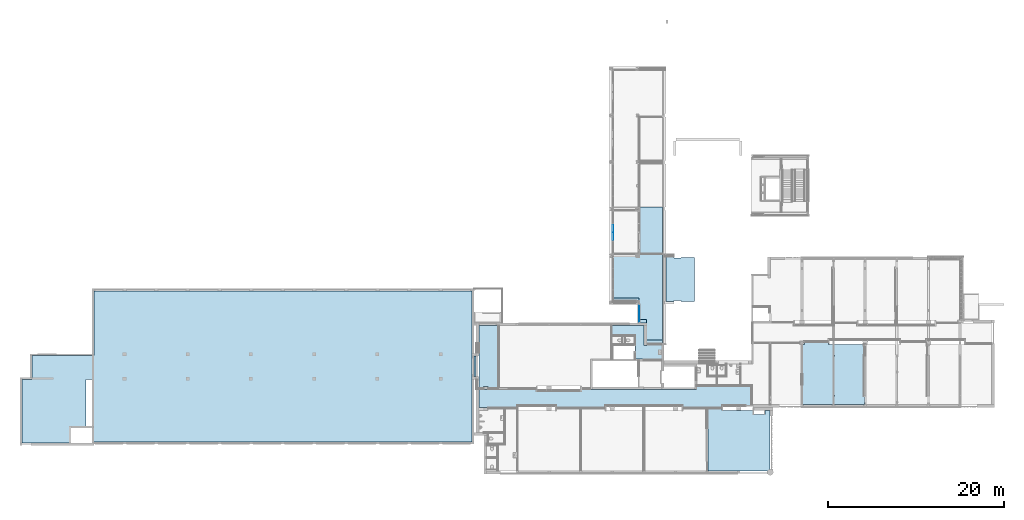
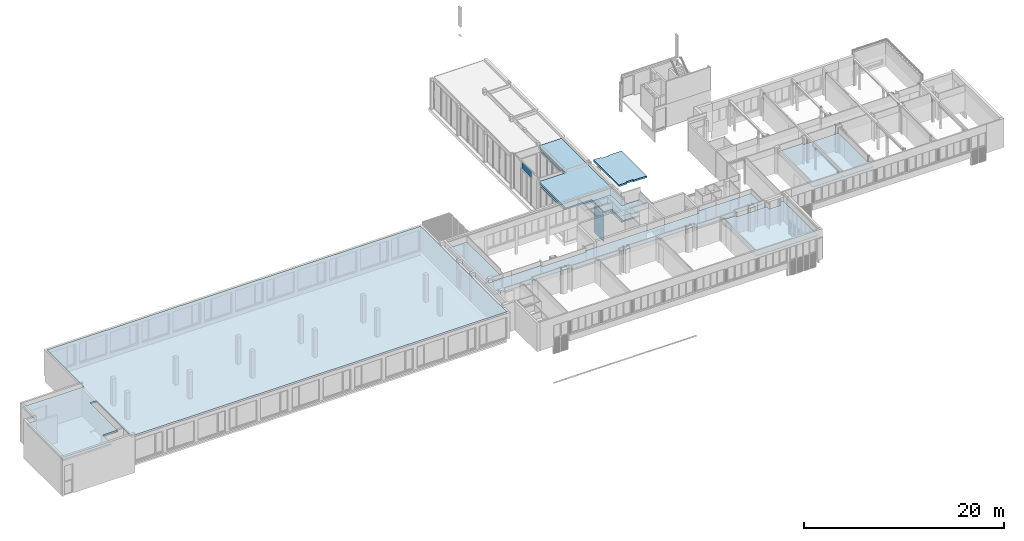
# One storey, part 23 of 99: 9 slabs, 2 plates, 4 elements without a shape of their own.
"""IFC2X3 building model written with IfcOpenShell, lengths in millimetres."""

from ifc_helpers import new_model, entity, si_unit, converted_unit, derived_unit, money_unit, direction, frame, origin_with_axes, place, context, subcontext, project, spatial, faceted_brep, material, type_object, element, aggregate, save


model = new_model("IFC2X3")

# Units and contexts
model_context = context("Model", 3, precision=0.01, world=origin_with_axes(), true_north=direction((0.0, 1.0)))
body_context = subcontext(model_context, "Body", "Model", "MODEL_VIEW")
ifc_project = project(units=[si_unit("LENGTHUNIT", "METRE", prefix="MILLI"), si_unit("AREAUNIT", "SQUARE_METRE"), si_unit("VOLUMEUNIT", "CUBIC_METRE"), converted_unit("PLANEANGLEUNIT", "DEGREE", entity("IfcPlaneAngleMeasure", 0.0174532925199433), si_unit("PLANEANGLEUNIT", "RADIAN"), dimensions=[0, 0, 0, 0, 0, 0, 0]), money_unit("EUR"), converted_unit("TIMEUNIT", "Year", entity("IfcTimeMeasure", 31557600.0), si_unit("TIMEUNIT", "SECOND"), dimensions=[0, 0, 1, 0, 0, 0, 0]), si_unit("MASSUNIT", "GRAM", prefix="KILO"), si_unit("THERMODYNAMICTEMPERATUREUNIT", "DEGREE_CELSIUS"), si_unit("LUMINOUSINTENSITYUNIT", "LUMEN"), si_unit("ENERGYUNIT", "JOULE", prefix="MEGA"), derived_unit("THERMALCONDUCTANCEUNIT", [(si_unit("POWERUNIT", "WATT"), 1), (si_unit("LENGTHUNIT", "METRE"), -1), (si_unit("THERMODYNAMICTEMPERATUREUNIT", "KELVIN"), -1)]), derived_unit("SPECIFICHEATCAPACITYUNIT", [(si_unit("ENERGYUNIT", "JOULE"), 1), (si_unit("MASSUNIT", "GRAM", prefix="KILO"), -1), (si_unit("THERMODYNAMICTEMPERATUREUNIT", "KELVIN"), -1)]), derived_unit("MASSDENSITYUNIT", [(si_unit("MASSUNIT", "GRAM", prefix="KILO"), 1), (si_unit("VOLUMEUNIT", "CUBIC_METRE"), -1)])], contexts=[model_context])

# Site, building, storey
site_placement = place(None, origin_with_axes())
site = spatial("IfcSite", under=ifc_project, at=site_placement, Name="Site", CompositionType="ELEMENT")
building_placement = place(site_placement, origin_with_axes())
building = spatial("IfcBuilding", under=site, at=building_placement, Name="Naam gebouw", CompositionType="ELEMENT")
storey_placement = place(building_placement, frame((0.0, 0.0, 7650.0), z_axis=(0.0, 0.0, 1.0), x_axis=(1.0, 0.0, 0.0)))
storey = spatial("IfcBuildingStorey", under=building, at=storey_placement, Name="2e verdieping N", CompositionType="ELEMENT", Elevation=7650.0)

# Slabs
ifc_material_1 = material(Name="ALG - CONSTRUCTIEF VLOER")
slab_type_1 = type_object("IfcSlabType", Name="ALG Vloer 200", PredefinedType="NOTDEFINED")
slab_1_placement = place(storey_placement, frame((-52799.99999994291, 6621.652687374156, 3060.0), z_axis=(0.0, 0.0, 1.0), x_axis=(1.0, 0.0, 0.0)))
element("IfcSlab", 1, at=slab_1_placement, inside=storey, type_object=slab_type_1, material=ifc_material_1, Name="_Vloer-x", PredefinedType="NOTDEFINED", context=body_context, shape_type="Brep", body=[
    faceted_brep([(0.0, 0.0, 0.0), (0.0, 0.0, -199.9999999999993), (5549.999999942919, -6.077662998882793, -199.9999999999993), (5549.999999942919, -6.077662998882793, 0.0), (-6.022560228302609e-08, 7243.922336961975, 0.0), (-6.022560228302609e-08, 7243.922336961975, -199.9999999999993), (1099.999999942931, 7243.92233697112, -199.9999999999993), (1099.999999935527, 9968.922336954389, -199.9999999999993), (8149.999999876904, 9968.922337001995, -199.9999999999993), (8149.999999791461, 17343.92233700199, -199.9999999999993), (51199.9999999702, 17343.92233700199, -199.9999999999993), (51200.0000192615, 143.9389468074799, -199.9999999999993), (7949.96639740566, 143.8871063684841, -199.9999999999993), (7955.394274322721, 7243.922350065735, -199.9999999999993), (7249.999858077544, 7243.922331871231, -199.9999999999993), (7249.999999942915, 1743.852526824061, -199.9999999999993), (5549.999917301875, 1743.852431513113, -199.9999999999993), (5549.999917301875, 1743.852431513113, 0.0), (7249.999999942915, 1743.852526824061, 0.0), (7249.999858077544, 7243.922331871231, 0.0), (7955.394274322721, 7243.922350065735, 0.0), (7949.96639740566, 143.8871063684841, 0.0), (51200.0000192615, 143.9389468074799, 0.0), (51199.9999999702, 17343.92233700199, 0.0), (8149.999999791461, 17343.92233700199, 0.0), (8149.999999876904, 9968.922337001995, 0.0), (1099.999999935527, 9968.922336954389, 0.0), (1099.999999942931, 7243.92233697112, 0.0)], [[[0, 1, 2, 3]], [[4, 5, 1, 0]], [[2, 1, 5, 6, 7, 8, 9, 10, 11, 12, 13, 14, 15, 16]], [[3, 2, 16, 17]], [[4, 0, 3, 17, 18, 19, 20, 21, 22, 23, 24, 25, 26, 27]], [[27, 6, 5, 4]], [[26, 7, 6, 27]], [[25, 8, 7, 26]], [[24, 9, 8, 25]], [[23, 10, 9, 24]], [[22, 11, 10, 23]], [[21, 12, 11, 22]], [[20, 13, 12, 21]], [[19, 14, 13, 20]], [[18, 15, 14, 19]], [[17, 16, 15, 18]]]),
])
ifc_material_2 = material(Name="ALG - BINNENAFWERKING")
slab_type_2 = type_object("IfcSlabType", Name="ALG - BINNENAFWERKING 40", PredefinedType="NOTDEFINED")
slab_2_placement = place(storey_placement, frame((25275.0, 10555.91242510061, 2450.000000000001), z_axis=(0.0, 0.0, 1.0), x_axis=(1.0, 0.0, 0.0)))
element("IfcSlab", 2, at=slab_2_placement, inside=storey, type_object=slab_type_2, material=ifc_material_2, Name="_Vloer-x", PredefinedType="NOTDEFINED", context=body_context, shape_type="Brep", body=[
    faceted_brep([(3775.000000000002, -237.5000000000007, 0.0), (3775.000000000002, -224.9999999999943, 0.0), (5149.999998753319, -224.9999999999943, 0.0), (5149.999998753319, -699.9999999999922, 0.0), (6504.187099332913, -699.9999999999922, 0.0), (6504.187099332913, -224.9999999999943, 0.0), (7070.470260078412, -224.9999999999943, 0.0), (7070.470260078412, -7110.243717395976, 0.0), (0.0, -7110.243717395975, 0.0), (0.0, 0.0, 0.0), (1624.999999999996, 0.0, 0.0), (1624.999999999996, -224.9999999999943, 0.0), (3275.000000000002, -224.9999999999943, 0.0), (3275.000000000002, -237.5000000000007, 0.0), (3775.000000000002, -237.5000000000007, 39.99999999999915), (3775.000000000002, -224.9999999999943, 39.99999999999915), (5149.999998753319, -224.9999999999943, 39.99999999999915), (5149.999998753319, -699.9999999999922, 39.99999999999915), (6504.187099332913, -699.9999999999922, 39.99999999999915), (6504.187099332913, -224.9999999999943, 39.99999999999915), (7070.470260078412, -224.9999999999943, 39.99999999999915), (7070.470260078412, -7110.243717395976, 39.99999999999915), (0.0, -7110.243717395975, 39.99999999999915), (0.0, 0.0, 39.99999999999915), (1624.999999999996, 0.0, 39.99999999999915), (1624.999999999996, -224.9999999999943, 39.99999999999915), (3275.000000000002, -224.9999999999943, 39.99999999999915), (3275.000000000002, -237.5000000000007, 39.99999999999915)], [[[0, 1, 2, 3, 4, 5, 6, 7, 8, 9, 10, 11, 12, 13]], [[0, 14, 15, 1]], [[2, 1, 15, 16]], [[2, 16, 17, 3]], [[3, 17, 18, 4]], [[4, 18, 19, 5]], [[5, 19, 20, 6]], [[6, 20, 21, 7]], [[7, 21, 22, 8]], [[8, 22, 23, 9]], [[9, 23, 24, 10]], [[10, 24, 25, 11]], [[25, 26, 12, 11]], [[13, 12, 26, 27]], [[13, 27, 14, 0]], [[15, 14, 27, 26, 25, 24, 23, 22, 21, 20, 19, 18, 17, 16]]]),
])
slab_3_placement = place(storey_placement, frame((-770.0761052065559, 12775.85635739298, 2450.000000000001), z_axis=(0.0, 0.0, 1.0), x_axis=(1.0, 0.0, 0.0)))
element("IfcSlab", 3, at=slab_3_placement, inside=storey, type_object=slab_type_2, material=ifc_material_2, Name="_Vloer-x", PredefinedType="NOTDEFINED", context=body_context, shape_type="Brep", body=[
    faceted_brep([(27670.07610520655, -1869.943932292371, 39.99999999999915), (30995.07610520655, -1869.943932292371, 39.99999999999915), (30995.07610520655, -1784.943932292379, 39.99999999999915), (30995.07610520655, 345.001761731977, 39.99999999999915), (24773.07610520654, 345.001761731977, 39.99999999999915), (24773.07610520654, -31.24831775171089, 39.99999999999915), (12675.57662369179, -31.24831775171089, 39.99999999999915), (12675.57662369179, 0.0, 39.99999999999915), (11620.07610520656, 0.0, 39.99999999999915), (11620.07610520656, -250.0, 39.99999999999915), (6544.575586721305, -250.0, 39.99999999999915), (6544.575586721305, 0.0, 39.99999999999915), (1020.076105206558, 0.0, 39.99999999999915), (1020.076105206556, -57.44393229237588, 39.99999999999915), (520.0761052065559, -57.44393229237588, 39.99999999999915), (520.0761052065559, 0.0, 39.99999999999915), (0.03902474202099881, 0.0, 39.99999999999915), (0.04989199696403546, -2102.443932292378, 39.99999999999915), (520.0761052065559, -2102.443932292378, 39.99999999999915), (1020.076105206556, -2102.443932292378, 39.99999999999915), (1020.076105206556, -2124.943932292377, 39.99999999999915), (4320.076105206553, -2124.943932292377, 39.99999999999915), (4320.076105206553, -1869.943932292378, 39.99999999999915), (8785.07610520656, -1869.943932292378, 39.99999999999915), (8785.07610520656, -2119.943932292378, 39.99999999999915), (14355.07610520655, -2119.943932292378, 39.99999999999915), (14355.07610520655, -1869.943932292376, 39.99999999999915), (23185.07610520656, -1869.943932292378, 39.99999999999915), (23185.07610520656, -2119.943932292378, 39.99999999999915), (27670.07610520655, -2119.943932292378, 39.99999999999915), (27670.07610520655, -1869.943932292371, 0.0), (30995.07610520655, -1869.943932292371, 0.0), (30995.07610520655, -1784.943932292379, 0.0), (30995.07610520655, 345.001761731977, 0.0), (24773.07610520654, 345.001761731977, 0.0), (24773.07610520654, -31.24831775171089, 0.0), (12675.57662369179, -31.24831775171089, 0.0), (12675.57662369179, 0.0, 0.0), (11620.07610520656, 0.0, 0.0), (11620.07610520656, -250.0, 0.0), (6544.575586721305, -250.0, 0.0), (6544.575586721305, 0.0, 0.0), (1020.076105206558, 0.0, 0.0), (1020.076105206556, -57.44393229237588, 0.0), (520.0761052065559, -57.44393229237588, 0.0), (520.0761052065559, 0.0, 0.0), (0.03902474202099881, 0.0, 0.0), (0.04989199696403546, -2102.443932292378, 0.0), (520.0761052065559, -2102.443932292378, 0.0), (1020.076105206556, -2102.443932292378, 0.0), (1020.076105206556, -2124.943932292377, 0.0), (4320.076105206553, -2124.943932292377, 0.0), (4320.076105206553, -1869.943932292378, 0.0), (8785.07610520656, -1869.943932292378, 0.0), (8785.07610520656, -2119.943932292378, 0.0), (14355.07610520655, -2119.943932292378, 0.0), (14355.07610520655, -1869.943932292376, 0.0), (23185.07610520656, -1869.943932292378, 0.0), (23185.07610520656, -2119.943932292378, 0.0), (27670.07610520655, -2119.943932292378, 0.0)], [[[0, 1, 2, 3, 4, 5, 6, 7, 8, 9, 10, 11, 12, 13, 14, 15, 16, 17, 18, 19, 20, 21, 22, 23, 24, 25, 26, 27, 28, 29]], [[30, 31, 1, 0]], [[31, 32, 2, 1]], [[3, 2, 32, 33]], [[33, 34, 4, 3]], [[34, 35, 5, 4]], [[35, 36, 6, 5]], [[36, 37, 7, 6]], [[37, 38, 8, 7]], [[38, 39, 9, 8]], [[39, 40, 10, 9]], [[40, 41, 11, 10]], [[41, 42, 12, 11]], [[42, 43, 13, 12]], [[43, 44, 14, 13]], [[44, 45, 15, 14]], [[45, 46, 16, 15]], [[17, 16, 46, 47]], [[18, 17, 47, 48]], [[48, 49, 19, 18]], [[49, 50, 20, 19]], [[50, 51, 21, 20]], [[51, 52, 22, 21]], [[52, 53, 23, 22]], [[53, 54, 24, 23]], [[54, 55, 25, 24]], [[55, 56, 26, 25]], [[56, 57, 27, 26]], [[57, 58, 28, 27]], [[58, 59, 29, 28]], [[59, 30, 0, 29]], [[33, 32, 31, 30, 59, 58, 57, 56, 55, 54, 53, 52, 51, 50, 49, 48, 47, 46, 45, 44, 43, 42, 41, 40, 39, 38, 37, 36, 35, 34]]]),
])
slab_4_placement = place(storey_placement, frame((36270.00000536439, 17870.91239447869, 2450.000000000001), z_axis=(0.0, 0.0, 1.0), x_axis=(1.0, 0.0, 0.0)))
element("IfcSlab", 4, at=slab_4_placement, inside=storey, type_object=slab_type_2, material=ifc_material_2, Name="_Vloer-x", PredefinedType="NOTDEFINED", context=body_context, shape_type="Brep", body=[
    faceted_brep([(3269.999994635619, -5914.999969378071, 39.99999999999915), (3389.999994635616, -5914.999969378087, 39.99999999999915), (3389.999994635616, -5794.999969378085, 39.99999999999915), (3269.999994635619, -5794.999969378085, 39.99999999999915), (3269.999994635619, -5914.999969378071, 0.0), (3389.999994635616, -5914.999969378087, 0.0), (3389.999994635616, -5794.999969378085, 0.0), (3269.999994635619, -5794.999969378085, 0.0)], [[[0, 1, 2, 3]], [[4, 5, 1, 0]], [[5, 6, 2, 1]], [[3, 2, 6, 7]], [[7, 4, 0, 3]], [[7, 6, 5, 4]]]),
    faceted_brep([(3269.999994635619, -1369.999969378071, 39.99999999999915), (3389.999994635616, -1369.999969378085, 39.99999999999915), (3389.999994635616, -1249.999969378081, 39.99999999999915), (3269.999994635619, -1249.999969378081, 39.99999999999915), (3269.999994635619, -1369.999969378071, 0.0), (3389.999994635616, -1369.999969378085, 0.0), (3389.999994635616, -1249.999969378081, 0.0), (3269.999994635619, -1249.999969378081, 0.0)], [[[0, 1, 2, 3]], [[4, 5, 1, 0]], [[5, 6, 2, 1]], [[3, 2, 6, 7]], [[7, 4, 0, 3]], [[7, 6, 5, 4]]]),
    faceted_brep([(3414.999994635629, -1224.999969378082, 0.0), (3414.999994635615, -1249.999969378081, 0.0), (3414.999994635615, -1249.999969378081, 39.99999999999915), (3414.999994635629, -1224.999969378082, 39.99999999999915), (-195.0000053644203, -6879.999969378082, 0.0), (-195.0000053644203, 0.0, 0.0), (0.0, 0.0, 0.0), (0.0, 225.0000306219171, 0.0), (2759.99999448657, 225.0000306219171, 0.0), (2759.99999448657, 0.0, 0.0), (6754.999994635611, 0.0, 0.0), (6754.999994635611, -5939.999919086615, 0.0), (6855.000001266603, -5939.999919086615, 0.0), (6855.000001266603, -6879.999969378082, 0.0), (3404.999955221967, -6879.999969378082, 0.0), (3404.999955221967, -6669.999969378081, 0.0), (3255.000040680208, -6669.999969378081, 0.0), (3255.000040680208, -6879.999969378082, 0.0), (3414.999994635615, -5939.999969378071, 0.0), (3414.999994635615, -5914.999969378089, 0.0), (3414.999994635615, -5794.999969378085, 0.0), (3414.999994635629, -5769.999969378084, 0.0), (3269.999994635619, -5769.999969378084, 0.0), (3244.99999463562, -5769.999969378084, 0.0), (3244.99999463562, -5939.999969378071, 0.0), (3269.999994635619, -5939.999969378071, 0.0), (3414.999994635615, -1394.99996937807, 0.0), (3414.999994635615, -1369.999969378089, 0.0), (3269.999994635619, -1224.999969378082, 0.0), (3244.99999463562, -1224.999969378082, 0.0), (3244.99999463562, -1394.99996937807, 0.0), (3269.999994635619, -1394.99996937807, 0.0), (3414.999994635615, -1369.999969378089, 39.99999999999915), (2759.99999448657, 225.0000306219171, 39.99999999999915), (0.0, 225.0000306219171, 39.99999999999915), (0.0, 0.0, 39.99999999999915), (-195.0000053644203, 0.0, 39.99999999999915), (-195.0000053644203, -6879.999969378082, 39.99999999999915), (3255.000040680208, -6879.999969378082, 39.99999999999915), (3255.000040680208, -6669.999969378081, 39.99999999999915), (3404.999955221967, -6669.999969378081, 39.99999999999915), (3404.999955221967, -6879.999969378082, 39.99999999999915), (6855.000001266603, -6879.999969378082, 39.99999999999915), (6855.000001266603, -5939.999919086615, 39.99999999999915), (6754.999994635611, -5939.999919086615, 39.99999999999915), (6754.999994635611, 0.0, 39.99999999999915), (2759.99999448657, 0.0, 39.99999999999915), (3414.999994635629, -5769.999969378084, 39.99999999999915), (3414.999994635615, -5794.999969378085, 39.99999999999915), (3414.999994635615, -5914.999969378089, 39.99999999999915), (3414.999994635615, -5939.999969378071, 39.99999999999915), (3269.999994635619, -5939.999969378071, 39.99999999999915), (3244.99999463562, -5939.999969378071, 39.99999999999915), (3244.99999463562, -5769.999969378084, 39.99999999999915), (3269.999994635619, -5769.999969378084, 39.99999999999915), (3414.999994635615, -1394.99996937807, 39.99999999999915), (3269.999994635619, -1394.99996937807, 39.99999999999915), (3244.99999463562, -1394.99996937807, 39.99999999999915), (3244.99999463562, -1224.999969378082, 39.99999999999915), (3269.999994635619, -1224.999969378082, 39.99999999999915)], [[[0, 1, 2, 3]], [[4, 5, 6, 7, 8, 9, 10, 11, 12, 13, 14, 15, 16, 17], [18, 19, 20, 21, 22, 23, 24, 25], [26, 27, 1, 0, 28, 29, 30, 31]], [[27, 32, 2, 1]], [[33, 34, 35, 36, 37, 38, 39, 40, 41, 42, 43, 44, 45, 46], [47, 48, 49, 50, 51, 52, 53, 54], [3, 2, 32, 55, 56, 57, 58, 59]], [[0, 3, 59, 28]], [[37, 36, 5, 4]], [[36, 35, 6, 5]], [[35, 34, 7, 6]], [[34, 33, 8, 7]], [[33, 46, 9, 8]], [[46, 45, 10, 9]], [[45, 44, 11, 10]], [[44, 43, 12, 11]], [[43, 42, 13, 12]], [[42, 41, 14, 13]], [[41, 40, 15, 14]], [[40, 39, 16, 15]], [[39, 38, 17, 16]], [[38, 37, 4, 17]], [[50, 49, 19, 18]], [[19, 49, 48, 20]], [[21, 20, 48, 47]], [[21, 47, 54, 22]], [[23, 22, 54, 53]], [[23, 53, 52, 24]], [[52, 51, 25, 24]], [[25, 51, 50, 18]], [[55, 32, 27, 26]], [[29, 28, 59, 58]], [[29, 58, 57, 30]], [[57, 56, 31, 30]], [[31, 56, 55, 26]]]),
])
slab_5_placement = place(storey_placement, frame((14362.5, 18906.42315075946, 2400.0), z_axis=(0.0, 0.0, 1.0), x_axis=(1.0, 0.0, 0.0)))
element("IfcSlab", 5, at=slab_5_placement, inside=storey, type_object=slab_type_2, material=ifc_material_2, Name="_Vloer-x", PredefinedType="NOTDEFINED", context=body_context, shape_type="Brep", body=[
    faceted_brep([(0.0, 0.0, 39.99999999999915), (0.0, 0.0, 0.0), (2675.292240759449, 0.0, 0.0), (2675.292240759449, 0.0, 39.99999999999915), (0.0, 1089.434260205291, 39.99999999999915), (0.0, 1089.434260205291, 0.0), (3637.499779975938, 1089.434260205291, 0.0), (3637.498286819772, -1150.000000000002, 0.0), (3967.498286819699, -1150.000220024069, 0.0), (3967.498332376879, -1081.671924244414, 0.0), (5678.499999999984, -1081.671924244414, 0.0), (5678.499999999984, -2810.50289077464, 0.0), (3637.500000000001, -2810.50289077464, 0.0), (3637.500000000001, -2710.502890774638, 0.0), (2675.292240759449, -2710.502890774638, 0.0), (2675.292240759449, -2710.502890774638, 39.99999999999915), (3637.500000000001, -2710.502890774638, 39.99999999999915), (3637.500000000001, -2810.50289077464, 39.99999999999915), (5678.499999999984, -2810.50289077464, 39.99999999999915), (5678.499999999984, -1081.671924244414, 39.99999999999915), (3967.498332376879, -1081.671924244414, 39.99999999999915), (3967.498286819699, -1150.000220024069, 39.99999999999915), (3637.498286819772, -1150.000000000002, 39.99999999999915), (3637.499779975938, 1089.434260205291, 39.99999999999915)], [[[0, 1, 2, 3]], [[4, 5, 1, 0]], [[2, 1, 5, 6, 7, 8, 9, 10, 11, 12, 13, 14]], [[3, 2, 14, 15]], [[4, 0, 3, 15, 16, 17, 18, 19, 20, 21, 22, 23]], [[23, 6, 5, 4]], [[22, 7, 6, 23]], [[21, 8, 7, 22]], [[20, 9, 8, 21]], [[19, 10, 9, 20]], [[18, 11, 10, 19]], [[17, 12, 11, 18]], [[16, 13, 12, 17]], [[15, 14, 13, 16]]]),
])
slab_6_placement = place(storey_placement, frame((-770.0761052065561, 12875.85635739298, 2450.000000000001), z_axis=(0.0, 0.0, 1.0), x_axis=(1.0, 0.0, 0.0)))
element("IfcSlab", 6, at=slab_6_placement, inside=storey, type_object=slab_type_2, material=ifc_material_2, Name="_Vloer-x", PredefinedType="NOTDEFINED", context=body_context, shape_type="Brep", body=[
    faceted_brep([(-329.96841697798, 1339.718666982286, 0.0), (-329.9803053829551, 3639.720372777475, 0.0), (-329.9803053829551, 3639.720372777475, 39.99999999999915), (-329.96841697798, 1339.718666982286, 39.99999999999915), (-579.9238947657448, 1339.718666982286, 0.0), (-579.9238947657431, 3639.721664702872, 0.0), (-579.9238947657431, 3639.721664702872, 39.99999999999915), (-579.9238947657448, 1339.718666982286, 39.99999999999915)], [[[0, 1, 2, 3]], [[4, 5, 1, 0]], [[5, 6, 2, 1]], [[3, 2, 6, 7]], [[7, 4, 0, 3]], [[7, 6, 5, 4]]]),
    faceted_brep([(0.0, 7119.970006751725, 0.0), (0.01969454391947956, 3639.735373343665, 0.0), (0.01969454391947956, 3639.735373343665, 39.99999999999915), (0.0, 7119.970006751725, 39.99999999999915), (0.0, 0.0, 0.0), (0.03158302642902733, 1339.718667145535, 0.0), (2199.999999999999, 7119.959839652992, 0.0), (2199.999999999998, 0.0, 0.0), (1020.076105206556, 0.0, 0.0), (1020.076105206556, 197.5560677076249, 0.0), (520.0761052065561, 197.5560677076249, 0.0), (520.0761052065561, 0.0, 0.0), (0.03158302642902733, 1339.718667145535, 39.99999999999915), (0.0, 0.0, 39.99999999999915), (520.0761052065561, 0.0, 39.99999999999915), (520.0761052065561, 197.5560677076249, 39.99999999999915), (1020.076105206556, 197.5560677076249, 39.99999999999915), (1020.076105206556, 0.0, 39.99999999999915), (2199.999999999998, 0.0, 39.99999999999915), (2199.999999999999, 7119.959839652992, 39.99999999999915)], [[[0, 1, 2, 3]], [[4, 5, 1, 0, 6, 7, 8, 9, 10, 11]], [[5, 12, 2, 1]], [[3, 2, 12, 13, 14, 15, 16, 17, 18, 19]], [[6, 0, 3, 19]], [[13, 12, 5, 4]], [[7, 6, 19, 18]], [[8, 7, 18, 17]], [[9, 8, 17, 16]], [[10, 9, 16, 15]], [[11, 10, 15, 14]], [[4, 11, 14, 13]]]),
])
ifc_material_3 = material(Name="ALG - ONTWERPWAND")
slab_type_3 = type_object("IfcSlabType", Name="ALG - ONTWERPWAND 200", PredefinedType="NOTDEFINED")
slab_7_placement = place(storey_placement, frame((21426.00000890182, 27830.91242546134, 1039.999999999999), z_axis=(0.0, 0.0, 1.0), x_axis=(1.0, 0.0, 0.0)))
element("IfcSlab", 7, at=slab_7_placement, inside=storey, type_object=slab_type_3, material=ifc_material_3, Name="_Vloer-x", PredefinedType="NOTDEFINED", context=body_context, shape_type="Brep", body=[
    faceted_brep([(-890.0000089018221, 0.0, -199.9999999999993), (-890.0000089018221, 0.0, 0.0), (0.0, 0.0, 0.0), (0.0, 0.0, -199.9999999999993), (-890.0000089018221, -5080.000032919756, -199.9999999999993), (-890.0000089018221, -5080.000032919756, 0.0), (819.9999596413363, -49.99994853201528, 0.0), (819.9999596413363, -137.500010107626, 0.0), (0.0, -137.500010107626, 0.0), (1.570810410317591, -5068.921865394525, 0.0), (0.0, -4942.50002281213, 0.0), (819.9999596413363, -4942.50002281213, 0.0), (818.8918313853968, -5075.833777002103, 0.0), (2324.000012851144, -5088.342987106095, 0.0), (2324.000088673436, -49.99994853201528, 0.0), (0.0, -137.500010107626, -199.9999999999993), (1.570810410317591, -5068.921865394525, -199.9999999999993), (819.9999596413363, -137.500010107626, -199.9999999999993), (819.9999596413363, -49.99994853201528, -199.9999999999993), (2324.000088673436, -49.99994853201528, -199.9999999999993), (2324.000012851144, -5088.342987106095, -199.9999999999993), (818.8918313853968, -5075.833777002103, -199.9999999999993), (819.9999596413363, -4942.50002281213, -199.9999999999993), (0.0, -4942.50002281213, -199.9999999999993)], [[[0, 1, 2, 3]], [[4, 5, 1, 0]], [[6, 7, 8, 2, 1, 5, 9, 10, 11, 12, 13, 14]], [[3, 2, 8, 15]], [[16, 4, 0, 3, 15, 17, 18, 19, 20, 21, 22, 23]], [[16, 9, 5, 4]], [[17, 7, 6, 18]], [[15, 8, 7, 17]], [[23, 10, 9, 16]], [[22, 11, 10, 23]], [[21, 12, 11, 22]], [[20, 13, 12, 21]], [[19, 14, 13, 20]], [[18, 6, 14, 19]]]),
])

# Roof, slab
roof_1_placement = place(storey_placement, frame((0.0, 0.0, -7650.0), z_axis=(0.0, 0.0, 1.0), x_axis=(1.0, 0.0, 0.0)))
roof_1 = element("IfcRoof", 8, at=roof_1_placement, inside=storey, Name="Basic Roof:27_3B_beton 300mm", ObjectType="Basic Roof:27_3B_beton 300mm", ShapeType="NOTDEFINED")
ifc_material_4 = material(Name="beton")
slab_type_4 = type_object("IfcSlabType", Name="beton 300", PredefinedType="ROOF")
slab_8_placement = place(roof_1_placement, frame((14444.63052975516, 25935.89841242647, 7550.000000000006), z_axis=(0.0, 0.0, 1.0), x_axis=(1.0, 0.0, 0.0)))
slab_8 = element("IfcSlab", 9, at=slab_8_placement, type_object=slab_type_4, material=ifc_material_4, Name="Basic Roof:27_3B_beton 300mm", PredefinedType="ROOF", context=body_context, shape_type="Brep", body=[
    faceted_brep([(2997.369470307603, -5260.014013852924, 299.9999999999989), (2997.369470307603, -5260.014013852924, 0.0), (3874.086861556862, -5260.014013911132, 0.0), (3874.086861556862, -5260.014013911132, 299.9999999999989), (2997.369470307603, -2794.985986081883, 299.9999999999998), (2997.369470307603, -2794.985986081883, 0.0), (-2.91038304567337e-08, -2794.985986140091, 0.0), (-2.91038304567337e-08, 2170.01401388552, 0.0), (3061.369470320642, 2170.014013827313, 0.0), (3061.369470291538, 7565.014013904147, 0.0), (5696.369470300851, 7565.014013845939, 0.0), (5696.369470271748, -7565.014013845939, 0.0), (3874.086861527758, -7565.014013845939, 0.0), (3874.086861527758, -7565.014013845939, 299.9999999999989), (5696.369470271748, -7565.014013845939, 299.9999999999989), (5696.369470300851, 7565.014013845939, 299.9999999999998), (3061.369470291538, 7565.014013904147, 299.9999999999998), (3061.369470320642, 2170.014013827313, 299.9999999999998), (-2.91038304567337e-08, 2170.01401388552, 299.9999999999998), (-2.91038304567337e-08, -2794.985986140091, 299.9999999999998)], [[[0, 1, 2, 3]], [[4, 5, 1, 0]], [[2, 1, 5, 6, 7, 8, 9, 10, 11, 12]], [[3, 2, 12, 13]], [[4, 0, 3, 13, 14, 15, 16, 17, 18, 19]], [[19, 6, 5, 4]], [[18, 7, 6, 19]], [[17, 8, 7, 18]], [[16, 9, 8, 17]], [[15, 10, 9, 16]], [[14, 11, 10, 15]], [[13, 12, 11, 14]]]),
])
aggregate(roof_1, [slab_8])

roof_2_placement = place(storey_placement, frame((0.0, 0.0, -7650.0), z_axis=(0.0, 0.0, 1.0), x_axis=(1.0, 0.0, 0.0)))
roof_2 = element("IfcRoof", 10, at=roof_2_placement, inside=storey, Name="Basic Roof:NLRS_27_RO_dakleer iso 164 2-2-160_gen", ObjectType="Basic Roof:NLRS_27_RO_dakleer iso 164 2-2-160_gen", ShapeType="NOTDEFINED")
ifc_material_5 = material(Name="IFC Building Material")
slab_type_5 = type_object("IfcSlabType", Name="IFC Building Material 164", PredefinedType="ROOF")
slab_9_placement = place(roof_2_placement, frame((14444.63052972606, 25753.39841248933, 7849.999999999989), z_axis=(0.0, 0.0, 1.0), x_axis=(1.0, 0.0, 0.0)))
slab_9 = element("IfcSlab", 11, at=slab_9_placement, type_object=slab_type_5, material=ifc_material_5, Name="Basic Roof:NLRS_27_RO_dakleer iso 164 2-2-160_gen", PredefinedType="ROOF", context=body_context, shape_type="Brep", body=[
    faceted_brep([(2997.369470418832, -5442.514013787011, 163.9999999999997), (2997.369470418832, -5442.514013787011, 0.0), (3874.086861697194, -5442.514013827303, 0.0), (3874.086861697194, -5442.514013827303, 163.9999999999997), (2997.369470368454, -2977.485986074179, 163.9999999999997), (2997.369470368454, -2977.485986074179, 0.0), (8.995471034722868e-08, -2977.485986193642, 0.0), (-1.897326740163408e-08, 2352.514013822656, 0.0), (3061.369470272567, 2352.514013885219, 0.0), (3061.369470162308, 7747.514013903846, 0.0), (5696.369470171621, 7747.51401389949, 0.0), (5696.369470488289, -7747.514013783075, 0.0), (3874.086861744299, -7747.514013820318, 0.0), (3874.086861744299, -7747.514013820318, 163.9999999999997), (5696.369470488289, -7747.514013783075, 163.9999999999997), (5696.369470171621, 7747.51401389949, 163.9999999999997), (3061.369470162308, 7747.514013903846, 163.9999999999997), (3061.369470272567, 2352.514013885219, 163.9999999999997), (-1.897326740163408e-08, 2352.514013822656, 163.9999999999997), (8.995471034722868e-08, -2977.485986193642, 163.9999999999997)], [[[0, 1, 2, 3]], [[4, 5, 1, 0]], [[2, 1, 5, 6, 7, 8, 9, 10, 11, 12]], [[3, 2, 12, 13]], [[4, 0, 3, 13, 14, 15, 16, 17, 18, 19]], [[19, 6, 5, 4]], [[18, 7, 6, 19]], [[17, 8, 7, 18]], [[16, 9, 8, 17]], [[15, 10, 9, 16]], [[14, 11, 10, 15]], [[13, 12, 11, 14]]]),
])
aggregate(roof_2, [slab_9])

# Curtain wall, plate
curtain_wall_type = type_object("IfcCurtainWallType", Name="Curtain Wall:21_CW_alu kozijn 084x065", PredefinedType="NOTDEFINED")
curtain_wall_1_placement = place(storey_placement, frame((0.0, 0.0, -7650.0), z_axis=(0.0, 0.0, 1.0), x_axis=(1.0, 0.0, 0.0)))
curtain_wall_1 = element("IfcCurtainWall", 12, at=curtain_wall_1_placement, inside=storey, type_object=curtain_wall_type, Name="Curtain Wall:21_CW_alu kozijn 084x065", ObjectType="Curtain Wall:21_CW_alu kozijn 084x065")
ifc_material_6 = material(Name="glas (1)")
plate_type_1 = type_object("IfcPlateType", Name="30_3B_vliesgevel - vastglas:vast glas_bi vast", PredefinedType="CURTAIN_PANEL")
plate_1_placement = place(curtain_wall_1_placement, frame((14474.50000003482, 30620.91242632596, 7511.999999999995), z_axis=(0.0, 0.0, 1.0), x_axis=(0.0, 1.0, 0.0)))
plate_1 = element("IfcPlate", 13, at=plate_1_placement, type_object=plate_type_1, material=ifc_material_6, Name="30_3B_vliesgevel - vastglas:vast glas_bi vast", ObjectType="CURTAIN_PANEL", context=body_context, shape_type="Brep", body=[
    faceted_brep([(972.9999999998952, -10.50000000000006, 0.0), (972.9999999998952, 10.49999999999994, 0.0), (972.9999999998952, 10.49999999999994, 793.9999999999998), (972.9999999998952, -10.50000000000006, 793.9999999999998), (-972.9999999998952, -10.49999999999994, 0.0), (-972.9999999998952, 10.50000000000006, 0.0), (-972.9999999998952, 10.50000000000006, 793.9999999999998), (-972.9999999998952, -10.49999999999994, 793.9999999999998)], [[[0, 1, 2, 3]], [[0, 4, 5, 1]], [[1, 5, 6, 2]], [[3, 2, 6, 7]], [[4, 0, 3, 7]], [[5, 4, 7, 6]]]),
])
aggregate(curtain_wall_1, [plate_1])

curtain_wall_2_placement = place(storey_placement, frame((0.0, 0.0, -7650.0), z_axis=(0.0, 0.0, 1.0), x_axis=(1.0, 0.0, 0.0)))
curtain_wall_2 = element("IfcCurtainWall", 14, at=curtain_wall_2_placement, inside=storey, type_object=curtain_wall_type, Name="Curtain Wall:21_CW_alu kozijn 084x065", ObjectType="Curtain Wall:21_CW_alu kozijn 084x065")
ifc_material_7 = material(Name="Glass")
plate_type_2 = type_object("IfcPlateType", Name="System Panel:31_CWP_alu glas_2", PredefinedType="CURTAIN_PANEL")
plate_2_placement = place(curtain_wall_2_placement, frame((17474.50000006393, 21393.39841244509, 4234.000000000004), z_axis=(0.0, 0.0, 1.0), x_axis=(0.0, 1.0, 0.0)))
plate_2 = element("IfcPlate", 15, at=plate_2_placement, type_object=plate_type_2, material=ifc_material_7, Name="System Panel:31_CWP_alu glas_2", ObjectType="CURTAIN_PANEL", context=body_context, shape_type="Brep", body=[
    faceted_brep([(998.5140138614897, -12.00000000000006, 0.0), (998.5140138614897, 11.99999999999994, 0.0), (998.5140138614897, 11.99999999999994, 3232.0), (998.5140138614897, -12.00000000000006, 3232.0), (-998.5140138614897, -11.99999999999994, 0.0), (-998.5140138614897, 12.00000000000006, 0.0), (-998.5140138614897, 12.00000000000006, 3232.0), (-998.5140138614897, -11.99999999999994, 3232.0)], [[[0, 1, 2, 3]], [[0, 4, 5, 1]], [[1, 5, 6, 2]], [[3, 2, 6, 7]], [[4, 0, 3, 7]], [[5, 4, 7, 6]]]),
])
aggregate(curtain_wall_2, [plate_2])

save(model, "model.ifc")
